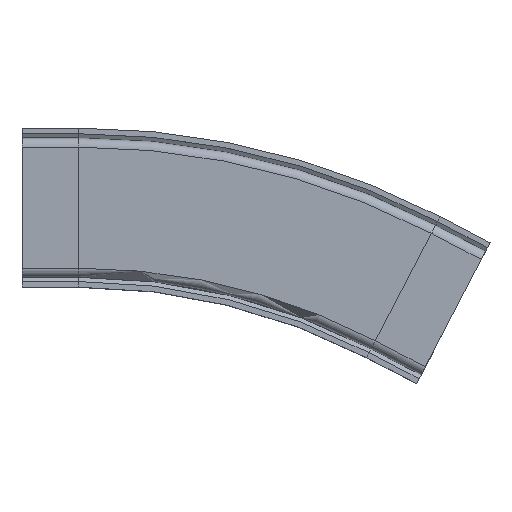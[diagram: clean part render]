
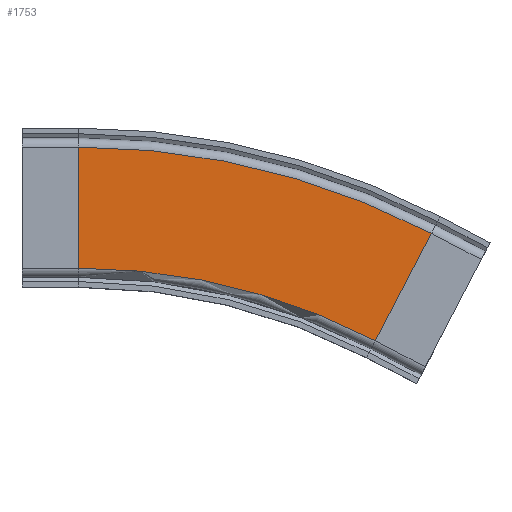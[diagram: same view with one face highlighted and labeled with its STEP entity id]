
A CAD part, top view. The second image highlights one B-rep face of the part: STEP entity #1753.
In plain terms, the highlighted planar face has unit normal (0, 0, 1).
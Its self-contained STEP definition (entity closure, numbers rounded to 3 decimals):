
#210 = DIRECTION ( 'NONE',  ( 1., 0., 0. ) ) ;
#345 = EDGE_LOOP ( 'NONE', ( #4321, #1473, #1135, #1859 ) ) ;
#748 = DIRECTION ( 'NONE',  ( 0., 0., -1. ) ) ;
#761 = VERTEX_POINT ( 'NONE', #4222 ) ;
#1135 = ORIENTED_EDGE ( 'NONE', *, *, #1969, .T. ) ;
#1150 = EDGE_CURVE ( 'NONE', #4451, #1537, #2355, .T. ) ;
#1238 = CARTESIAN_POINT ( 'NONE',  ( 40., -500., 42.5 ) ) ;
#1239 = AXIS2_PLACEMENT_3D ( 'NONE', #5110, #748, #5544 ) ;
#1315 = LINE ( 'NONE', #4873, #4925 ) ;
#1433 = EDGE_CURVE ( 'NONE', #761, #1537, #2362, .T. ) ;
#1473 = ORIENTED_EDGE ( 'NONE', *, *, #1433, .F. ) ;
#1537 = VERTEX_POINT ( 'NONE', #2819 ) ;
#1688 = DIRECTION ( 'NONE',  ( 0., -1., 0. ) ) ;
#1753 = ADVANCED_FACE ( 'NONE', ( #2068 ), #5524, .F. ) ;
#1839 = DIRECTION ( 'NONE',  ( 1., 0., 0. ) ) ;
#1859 = ORIENTED_EDGE ( 'NONE', *, *, #5275, .T. ) ;
#1969 = EDGE_CURVE ( 'NONE', #761, #2742, #1315, .T. ) ;
#1970 = CARTESIAN_POINT ( 'NONE',  ( 40., -500., 42.5 ) ) ;
#2068 = FACE_OUTER_BOUND ( 'NONE', #345, .T. ) ;
#2077 = AXIS2_PLACEMENT_3D ( 'NONE', #1238, #4733, #1839 ) ;
#2146 = CARTESIAN_POINT ( 'NONE',  ( 40., 43., 42.5 ) ) ;
#2355 = LINE ( 'NONE', #5163, #2490 ) ;
#2362 = CIRCLE ( 'NONE', #3913, 457. ) ;
#2490 = VECTOR ( 'NONE', #1688, 1000. ) ;
#2742 = VERTEX_POINT ( 'NONE', #4056 ) ;
#2819 = CARTESIAN_POINT ( 'NONE',  ( 40., -43., 42.5 ) ) ;
#3913 = AXIS2_PLACEMENT_3D ( 'NONE', #1970, #5009, #210 ) ;
#4056 = CARTESIAN_POINT ( 'NONE',  ( 290.729, -18.353, 42.5 ) ) ;
#4222 = CARTESIAN_POINT ( 'NONE',  ( 251.019, -94.636, 42.5 ) ) ;
#4321 = ORIENTED_EDGE ( 'NONE', *, *, #1150, .T. ) ;
#4451 = VERTEX_POINT ( 'NONE', #2146 ) ;
#4488 = CIRCLE ( 'NONE', #2077, 543. ) ;
#4733 = DIRECTION ( 'NONE',  ( 0., 0., 1. ) ) ;
#4873 = CARTESIAN_POINT ( 'NONE',  ( 251.019, -94.636, 42.5 ) ) ;
#4925 = VECTOR ( 'NONE', #5300, 1000. ) ;
#5009 = DIRECTION ( 'NONE',  ( 0., 0., 1. ) ) ;
#5110 = CARTESIAN_POINT ( 'NONE',  ( 251.019, -94.636, 42.5 ) ) ;
#5163 = CARTESIAN_POINT ( 'NONE',  ( 40., 0., 42.5 ) ) ;
#5275 = EDGE_CURVE ( 'NONE', #2742, #4451, #4488, .T. ) ;
#5300 = DIRECTION ( 'NONE',  ( 0.462, 0.887, 0. ) ) ;
#5524 = PLANE ( 'NONE',  #1239 ) ;
#5544 = DIRECTION ( 'NONE',  ( -1., 0., 0. ) ) ;
